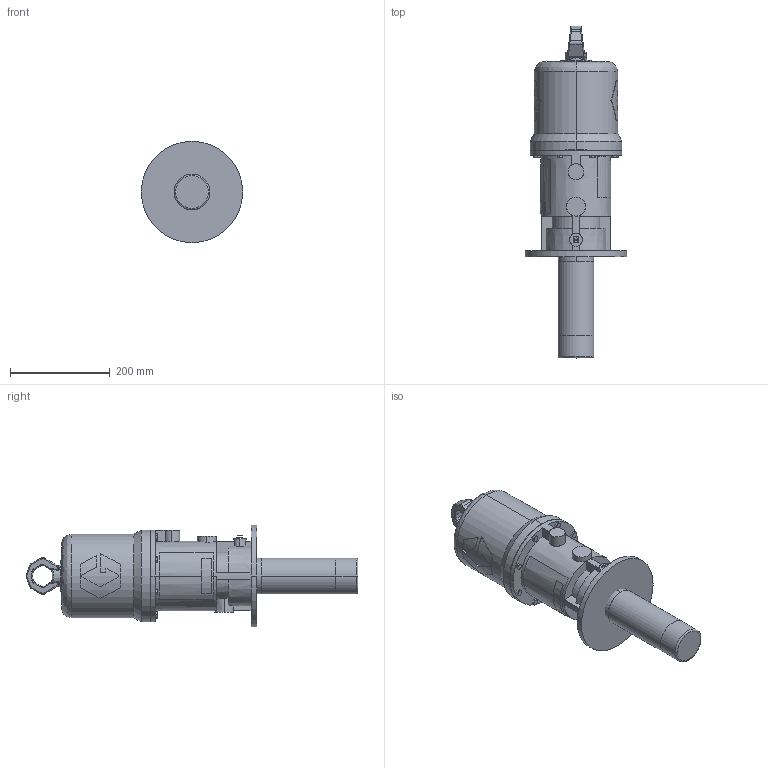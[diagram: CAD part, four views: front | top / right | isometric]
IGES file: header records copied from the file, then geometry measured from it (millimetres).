
Start section:  PTC IGES file: 238108-en-zaa.igs
Global section: file name: 238108-en-zaa.igs; native system: Creo Parametric by PTC Inc.; preprocessor: 2021072; author: qtmwp1; organization: Unknown; date: 20240221.093611; units: inch
Bounding box: 203.2 x 665.99 x 203.2 mm (x, y, z)
Surface area: 407118.8 mm2 (no closed solid volume)
Topology: 0 solids, 0 shells, 325 faces, 1609 edges, 1609 vertices
Faces by surface type: bspline 177, revolution 148
